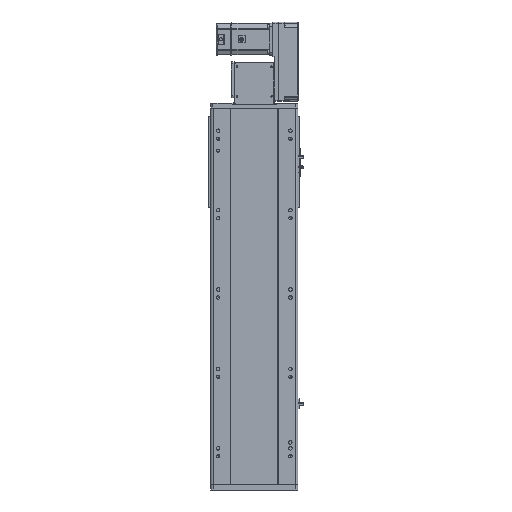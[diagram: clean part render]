
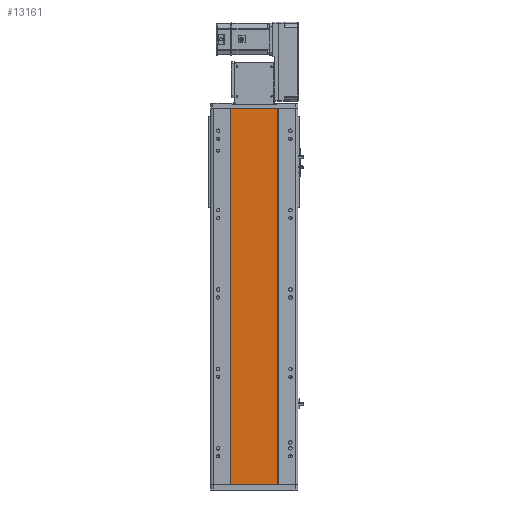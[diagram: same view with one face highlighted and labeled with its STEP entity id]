
A CAD part, front view. The second image highlights one B-rep face of the part: STEP entity #13161.
In plain terms, the highlighted planar face has unit normal (0, -1, 0).
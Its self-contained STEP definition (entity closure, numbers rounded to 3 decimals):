
#225 = ORIENTED_EDGE ( 'NONE', *, *, #28307, .F. ) ;
#2801 = CARTESIAN_POINT ( 'NONE',  ( -59., 1., 474.5 ) ) ;
#2841 = CARTESIAN_POINT ( 'NONE',  ( -59., 1., 474.5 ) ) ;
#3407 = LINE ( 'NONE', #49635, #31383 ) ;
#5697 = VECTOR ( 'NONE', #14058, 1000. ) ;
#6210 = VERTEX_POINT ( 'NONE', #13879 ) ;
#6916 = ORIENTED_EDGE ( 'NONE', *, *, #19267, .T. ) ;
#7349 = DIRECTION ( 'NONE',  ( -1., 0., 0. ) ) ;
#8006 = LINE ( 'NONE', #18956, #24175 ) ;
#9393 = CARTESIAN_POINT ( 'NONE',  ( -59., 1., 474.5 ) ) ;
#11354 = DIRECTION ( 'NONE',  ( 1., 0., 0. ) ) ;
#13161 = ADVANCED_FACE ( 'NONE', ( #24939 ), #30973, .F. ) ;
#13385 = CARTESIAN_POINT ( 'NONE',  ( -59., 1., -474.5 ) ) ;
#13879 = CARTESIAN_POINT ( 'NONE',  ( 59., 1., 474.5 ) ) ;
#14024 = EDGE_CURVE ( 'NONE', #6210, #43023, #3407, .T. ) ;
#14058 = DIRECTION ( 'NONE',  ( 1., 0., 0. ) ) ;
#14076 = LINE ( 'NONE', #2801, #45705 ) ;
#17156 = CARTESIAN_POINT ( 'NONE',  ( 59., 1., -474.5 ) ) ;
#18956 = CARTESIAN_POINT ( 'NONE',  ( -59., 1., -474.5 ) ) ;
#19267 = EDGE_CURVE ( 'NONE', #43457, #45187, #14076, .T. ) ;
#24175 = VECTOR ( 'NONE', #11354, 1000. ) ;
#24939 = FACE_OUTER_BOUND ( 'NONE', #48948, .T. ) ;
#25892 = DIRECTION ( 'NONE',  ( 0., 0., -1. ) ) ;
#26867 = ORIENTED_EDGE ( 'NONE', *, *, #50957, .T. ) ;
#28307 = EDGE_CURVE ( 'NONE', #43457, #6210, #31801, .T. ) ;
#30615 = DIRECTION ( 'NONE',  ( 0., 0., -1. ) ) ;
#30659 = DIRECTION ( 'NONE',  ( 0., 1., 0. ) ) ;
#30973 = PLANE ( 'NONE',  #46225 ) ;
#31383 = VECTOR ( 'NONE', #25892, 1000. ) ;
#31583 = CARTESIAN_POINT ( 'NONE',  ( -59., 1., 474.5 ) ) ;
#31801 = LINE ( 'NONE', #9393, #5697 ) ;
#40893 = ORIENTED_EDGE ( 'NONE', *, *, #14024, .F. ) ;
#43023 = VERTEX_POINT ( 'NONE', #17156 ) ;
#43457 = VERTEX_POINT ( 'NONE', #31583 ) ;
#45187 = VERTEX_POINT ( 'NONE', #13385 ) ;
#45705 = VECTOR ( 'NONE', #30615, 1000. ) ;
#46225 = AXIS2_PLACEMENT_3D ( 'NONE', #2841, #30659, #7349 ) ;
#48948 = EDGE_LOOP ( 'NONE', ( #26867, #40893, #225, #6916 ) ) ;
#49635 = CARTESIAN_POINT ( 'NONE',  ( 59., 1., 474.5 ) ) ;
#50957 = EDGE_CURVE ( 'NONE', #45187, #43023, #8006, .T. ) ;
